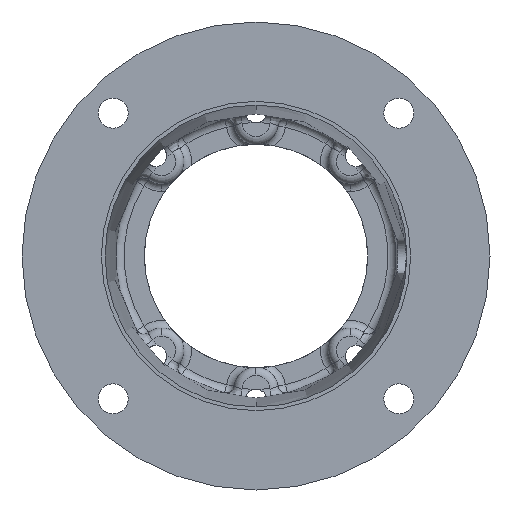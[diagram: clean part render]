
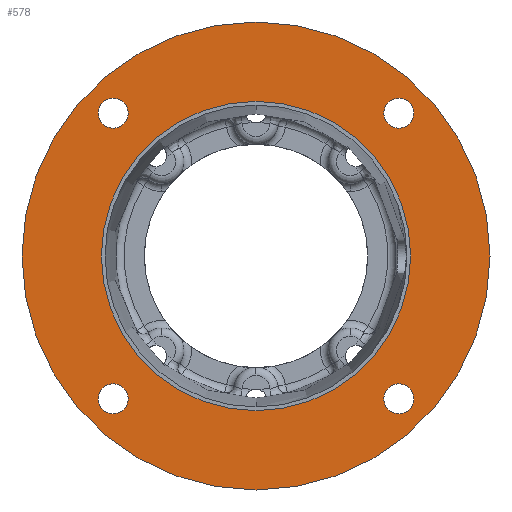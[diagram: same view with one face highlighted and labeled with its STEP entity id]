
A CAD part, front view. The second image highlights one B-rep face of the part: STEP entity #578.
In plain terms, the highlighted planar face has unit normal (0, -1, 0).
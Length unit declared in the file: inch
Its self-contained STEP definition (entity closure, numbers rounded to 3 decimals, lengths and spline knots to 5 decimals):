
#14 = EDGE_CURVE ( 'NONE', #64, #17, #2373, .T. ) ;
#17 = VERTEX_POINT ( 'NONE', #2357 ) ;
#23 = VERTEX_POINT ( 'NONE', #2401 ) ;
#28 = EDGE_CURVE ( 'NONE', #29, #23, #2395, .T. ) ;
#29 = VERTEX_POINT ( 'NONE', #2390 ) ;
#64 = VERTEX_POINT ( 'NONE', #2442 ) ;
#436 = EDGE_CURVE ( 'NONE', #2006, #2005, #3587, .T. ) ;
#501 = EDGE_LOOP ( 'NONE', ( #502, #563 ) ) ;
#502 = ORIENTED_EDGE ( 'NONE', *, *, #503, .T. ) ;
#503 = EDGE_CURVE ( 'NONE', #2245, #2308, #3813, .T. ) ;
#504 = EDGE_LOOP ( 'NONE', ( #564, #566 ) ) ;
#563 = ORIENTED_EDGE ( 'NONE', *, *, #2307, .T. ) ;
#564 = ORIENTED_EDGE ( 'NONE', *, *, #565, .T. ) ;
#565 = EDGE_CURVE ( 'NONE', #23, #29, #3895, .T. ) ;
#566 = ORIENTED_EDGE ( 'NONE', *, *, #28, .T. ) ;
#567 = EDGE_LOOP ( 'NONE', ( #568, #570 ) ) ;
#568 = ORIENTED_EDGE ( 'NONE', *, *, #569, .T. ) ;
#569 = EDGE_CURVE ( 'NONE', #17, #64, #3890, .T. ) ;
#570 = ORIENTED_EDGE ( 'NONE', *, *, #14, .T. ) ;
#571 = EDGE_LOOP ( 'NONE', ( #572, #573 ) ) ;
#572 = ORIENTED_EDGE ( 'NONE', *, *, #2010, .T. ) ;
#573 = ORIENTED_EDGE ( 'NONE', *, *, #436, .T. ) ;
#578 = ADVANCED_FACE ( 'NONE', ( #3947, #3946, #3945, #3944, #3943, #3942 ), #3941, .F. ) ;
#579 = EDGE_LOOP ( 'NONE', ( #580, #582 ) ) ;
#580 = ORIENTED_EDGE ( 'NONE', *, *, #581, .F. ) ;
#581 = EDGE_CURVE ( 'NONE', #2289, #2286, #3936, .T. ) ;
#582 = ORIENTED_EDGE ( 'NONE', *, *, #2288, .F. ) ;
#583 = EDGE_LOOP ( 'NONE', ( #584, #586 ) ) ;
#584 = ORIENTED_EDGE ( 'NONE', *, *, #585, .T. ) ;
#585 = EDGE_CURVE ( 'NONE', #2235, #2276, #3931, .T. ) ;
#586 = ORIENTED_EDGE ( 'NONE', *, *, #2234, .T. ) ;
#2005 = VERTEX_POINT ( 'NONE', #7742 ) ;
#2006 = VERTEX_POINT ( 'NONE', #7741 ) ;
#2010 = EDGE_CURVE ( 'NONE', #2005, #2006, #7833, .T. ) ;
#2234 = EDGE_CURVE ( 'NONE', #2276, #2235, #8379, .T. ) ;
#2235 = VERTEX_POINT ( 'NONE', #8374 ) ;
#2245 = VERTEX_POINT ( 'NONE', #8412 ) ;
#2276 = VERTEX_POINT ( 'NONE', #8469 ) ;
#2286 = VERTEX_POINT ( 'NONE', #8514 ) ;
#2288 = EDGE_CURVE ( 'NONE', #2286, #2289, #8513, .T. ) ;
#2289 = VERTEX_POINT ( 'NONE', #8508 ) ;
#2307 = EDGE_CURVE ( 'NONE', #2308, #2245, #8536, .T. ) ;
#2308 = VERTEX_POINT ( 'NONE', #8527 ) ;
#2357 = CARTESIAN_POINT ( 'NONE',  ( 2.07889, 0., 2.29764 ) ) ;
#2369 = DIRECTION ( 'NONE',  ( 0., 0., 1. ) ) ;
#2370 = DIRECTION ( 'NONE',  ( 0., 1., 0. ) ) ;
#2371 = CARTESIAN_POINT ( 'NONE',  ( 2.07889, 0., 2.07889 ) ) ;
#2372 = AXIS2_PLACEMENT_3D ( 'NONE', #2371, #2370, #2369 ) ;
#2373 = CIRCLE ( 'NONE', #2372, 0.21875 ) ;
#2390 = CARTESIAN_POINT ( 'NONE',  ( -2.07889, 0., 1.86014 ) ) ;
#2391 = DIRECTION ( 'NONE',  ( 0., 0., 1. ) ) ;
#2392 = DIRECTION ( 'NONE',  ( 0., 1., 0. ) ) ;
#2393 = CARTESIAN_POINT ( 'NONE',  ( -2.07889, 0., 2.07889 ) ) ;
#2394 = AXIS2_PLACEMENT_3D ( 'NONE', #2393, #2392, #2391 ) ;
#2395 = CIRCLE ( 'NONE', #2394, 0.21875 ) ;
#2401 = CARTESIAN_POINT ( 'NONE',  ( -2.07889, 0., 2.29764 ) ) ;
#2442 = CARTESIAN_POINT ( 'NONE',  ( 2.07889, 0., 1.86014 ) ) ;
#3583 = DIRECTION ( 'NONE',  ( 0., 0., -1. ) ) ;
#3584 = DIRECTION ( 'NONE',  ( 0., -1., 0. ) ) ;
#3585 = CARTESIAN_POINT ( 'NONE',  ( 0., 0., 0. ) ) ;
#3586 = AXIS2_PLACEMENT_3D ( 'NONE', #3585, #3584, #3583 ) ;
#3587 = CIRCLE ( 'NONE', #3586, 3.405 ) ;
#3809 = DIRECTION ( 'NONE',  ( 0., 0., 1. ) ) ;
#3810 = DIRECTION ( 'NONE',  ( 0., 1., 0. ) ) ;
#3811 = CARTESIAN_POINT ( 'NONE',  ( -2.07889, 0., -2.07889 ) ) ;
#3812 = AXIS2_PLACEMENT_3D ( 'NONE', #3811, #3810, #3809 ) ;
#3813 = CIRCLE ( 'NONE', #3812, 0.21875 ) ;
#3886 = DIRECTION ( 'NONE',  ( 0., 0., 1. ) ) ;
#3887 = DIRECTION ( 'NONE',  ( 0., 1., 0. ) ) ;
#3888 = CARTESIAN_POINT ( 'NONE',  ( 2.07889, 0., 2.07889 ) ) ;
#3889 = AXIS2_PLACEMENT_3D ( 'NONE', #3888, #3887, #3886 ) ;
#3890 = CIRCLE ( 'NONE', #3889, 0.21875 ) ;
#3891 = DIRECTION ( 'NONE',  ( 0., 0., 1. ) ) ;
#3892 = DIRECTION ( 'NONE',  ( 0., 1., 0. ) ) ;
#3893 = CARTESIAN_POINT ( 'NONE',  ( -2.07889, 0., 2.07889 ) ) ;
#3894 = AXIS2_PLACEMENT_3D ( 'NONE', #3893, #3892, #3891 ) ;
#3895 = CIRCLE ( 'NONE', #3894, 0.21875 ) ;
#3927 = DIRECTION ( 'NONE',  ( 0., 0., 1. ) ) ;
#3928 = DIRECTION ( 'NONE',  ( 0., 1., 0. ) ) ;
#3929 = CARTESIAN_POINT ( 'NONE',  ( 2.07889, 0., -2.07889 ) ) ;
#3930 = AXIS2_PLACEMENT_3D ( 'NONE', #3929, #3928, #3927 ) ;
#3931 = CIRCLE ( 'NONE', #3930, 0.21875 ) ;
#3932 = DIRECTION ( 'NONE',  ( 0., 0., -1. ) ) ;
#3933 = DIRECTION ( 'NONE',  ( 0., -1., 0. ) ) ;
#3934 = CARTESIAN_POINT ( 'NONE',  ( 0., 0., 0. ) ) ;
#3935 = AXIS2_PLACEMENT_3D ( 'NONE', #3934, #3933, #3932 ) ;
#3936 = CIRCLE ( 'NONE', #3935, 2.2505 ) ;
#3937 = DIRECTION ( 'NONE',  ( 0., 0., 1. ) ) ;
#3938 = DIRECTION ( 'NONE',  ( 0., 1., 0. ) ) ;
#3939 = CARTESIAN_POINT ( 'NONE',  ( -2.20315, 0., 0. ) ) ;
#3940 = AXIS2_PLACEMENT_3D ( 'NONE', #3939, #3938, #3937 ) ;
#3941 = PLANE ( 'NONE',  #3940 ) ;
#3942 = FACE_OUTER_BOUND ( 'NONE', #571, .T. ) ;
#3943 = FACE_BOUND ( 'NONE', #567, .T. ) ;
#3944 = FACE_BOUND ( 'NONE', #504, .T. ) ;
#3945 = FACE_BOUND ( 'NONE', #501, .T. ) ;
#3946 = FACE_BOUND ( 'NONE', #583, .T. ) ;
#3947 = FACE_BOUND ( 'NONE', #579, .T. ) ;
#7741 = CARTESIAN_POINT ( 'NONE',  ( 0., 0., 3.405 ) ) ;
#7742 = CARTESIAN_POINT ( 'NONE',  ( 0., 0., -3.405 ) ) ;
#7830 = DIRECTION ( 'NONE',  ( 0., 0., -1. ) ) ;
#7831 = DIRECTION ( 'NONE',  ( 0., -1., 0. ) ) ;
#7832 = AXIS2_PLACEMENT_3D ( 'NONE', #7838, #7831, #7830 ) ;
#7833 = CIRCLE ( 'NONE', #7832, 3.405 ) ;
#7838 = CARTESIAN_POINT ( 'NONE',  ( 0., 0., 0. ) ) ;
#8374 = CARTESIAN_POINT ( 'NONE',  ( 2.07889, 0., -1.86014 ) ) ;
#8375 = DIRECTION ( 'NONE',  ( 0., 0., 1. ) ) ;
#8376 = DIRECTION ( 'NONE',  ( 0., 1., 0. ) ) ;
#8377 = CARTESIAN_POINT ( 'NONE',  ( 2.07889, 0., -2.07889 ) ) ;
#8378 = AXIS2_PLACEMENT_3D ( 'NONE', #8377, #8376, #8375 ) ;
#8379 = CIRCLE ( 'NONE', #8378, 0.21875 ) ;
#8412 = CARTESIAN_POINT ( 'NONE',  ( -2.07889, 0., -1.86014 ) ) ;
#8469 = CARTESIAN_POINT ( 'NONE',  ( 2.07889, 0., -2.29764 ) ) ;
#8508 = CARTESIAN_POINT ( 'NONE',  ( 0., 0., -2.2505 ) ) ;
#8509 = DIRECTION ( 'NONE',  ( 0., 0., -1. ) ) ;
#8510 = DIRECTION ( 'NONE',  ( 0., -1., 0. ) ) ;
#8511 = CARTESIAN_POINT ( 'NONE',  ( 0., 0., 0. ) ) ;
#8512 = AXIS2_PLACEMENT_3D ( 'NONE', #8511, #8510, #8509 ) ;
#8513 = CIRCLE ( 'NONE', #8512, 2.2505 ) ;
#8514 = CARTESIAN_POINT ( 'NONE',  ( 0., 0., 2.2505 ) ) ;
#8527 = CARTESIAN_POINT ( 'NONE',  ( -2.07889, 0., -2.29764 ) ) ;
#8528 = DIRECTION ( 'NONE',  ( 0., 0., 1. ) ) ;
#8529 = DIRECTION ( 'NONE',  ( 0., 1., 0. ) ) ;
#8530 = CARTESIAN_POINT ( 'NONE',  ( -2.07889, 0., -2.07889 ) ) ;
#8531 = AXIS2_PLACEMENT_3D ( 'NONE', #8530, #8529, #8528 ) ;
#8536 = CIRCLE ( 'NONE', #8531, 0.21875 ) ;
